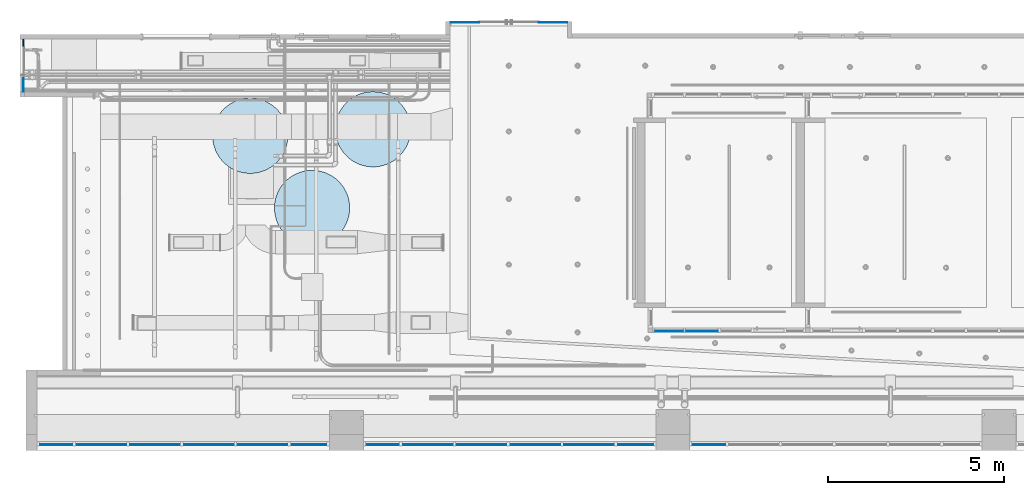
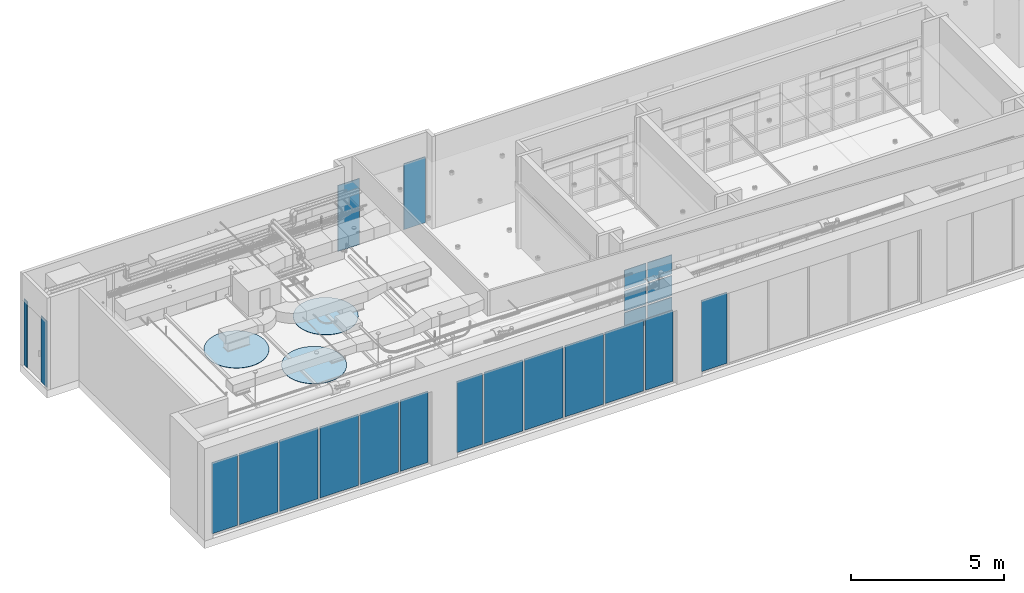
# One storey, part 11 of 108: 23 plates, 3 slabs, 6 elements without a shape of their own.
"""IFC4 building model written with IfcOpenShell, lengths in feet."""

from ifc_helpers import new_model, entity, si_unit, converted_unit, derived_unit, direction, frame, frame_2d, origin, place, context, subcontext, project, spatial, rectangle, circle, extrude, shape, source, transform, mapped, material, layer, layer_set, layer_usage, type_object, type_shapes, element, aggregate, save


model = new_model("IFC4")

# Units and contexts
model_context = context("Model", 3, precision=0.0001, world=origin(), true_north=direction((6.12303176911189e-17, 1.0)))
body_context = subcontext(model_context, "Body", "Model", "MODEL_VIEW")
footprint_context = subcontext(model_context, "FootPrint", "Model", "MODEL_VIEW")
ifc_project = project(units=[converted_unit("LENGTHUNIT", "FOOT", entity("IfcRatioMeasure", 0.3048), si_unit("LENGTHUNIT", "METRE"), dimensions=[1, 0, 0, 0, 0, 0, 0]), converted_unit("AREAUNIT", "SQUARE FOOT", entity("IfcRatioMeasure", 0.09290304), si_unit("AREAUNIT", "SQUARE_METRE"), dimensions=[2, 0, 0, 0, 0, 0, 0]), converted_unit("VOLUMEUNIT", "CUBIC FOOT", entity("IfcRatioMeasure", 0.028316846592), si_unit("VOLUMEUNIT", "CUBIC_METRE"), dimensions=[3, 0, 0, 0, 0, 0, 0]), converted_unit("PLANEANGLEUNIT", "DEGREE", entity("IfcRatioMeasure", 0.0174532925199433), si_unit("PLANEANGLEUNIT", "RADIAN"), dimensions=[0, 0, 0, 0, 0, 0, 0]), si_unit("MASSUNIT", "GRAM", prefix="KILO"), derived_unit("MASSDENSITYUNIT", [(si_unit("MASSUNIT", "GRAM", prefix="KILO"), 1), (si_unit("LENGTHUNIT", "METRE"), -3)]), si_unit("TIMEUNIT", "SECOND"), si_unit("FREQUENCYUNIT", "HERTZ"), si_unit("THERMODYNAMICTEMPERATUREUNIT", "DEGREE_CELSIUS"), derived_unit("THERMALTRANSMITTANCEUNIT", [(si_unit("MASSUNIT", "GRAM", prefix="KILO"), 1), (si_unit("THERMODYNAMICTEMPERATUREUNIT", "KELVIN"), -1), (si_unit("TIMEUNIT", "SECOND"), -3)]), derived_unit("VOLUMETRICFLOWRATEUNIT", [(si_unit("LENGTHUNIT", "METRE"), 3), (si_unit("TIMEUNIT", "SECOND"), -1)]), si_unit("ELECTRICCURRENTUNIT", "AMPERE"), si_unit("ELECTRICVOLTAGEUNIT", "VOLT"), si_unit("POWERUNIT", "WATT"), si_unit("FORCEUNIT", "NEWTON"), si_unit("ILLUMINANCEUNIT", "LUX"), si_unit("LUMINOUSFLUXUNIT", "LUMEN"), si_unit("LUMINOUSINTENSITYUNIT", "CANDELA"), derived_unit("USERDEFINED", [(si_unit("MASSUNIT", "GRAM", prefix="KILO"), -1), (si_unit("LENGTHUNIT", "METRE"), -2), (si_unit("TIMEUNIT", "SECOND"), 3), (si_unit("LUMINOUSFLUXUNIT", "LUMEN"), 1)]), derived_unit("LINEARVELOCITYUNIT", [(si_unit("LENGTHUNIT", "METRE"), 1), (si_unit("TIMEUNIT", "SECOND"), -1)]), si_unit("PRESSUREUNIT", "PASCAL"), derived_unit("USERDEFINED", [(si_unit("LENGTHUNIT", "METRE"), -2), (si_unit("MASSUNIT", "GRAM", prefix="KILO"), 1), (si_unit("TIMEUNIT", "SECOND"), -2)])], contexts=[model_context])

# Site, building, storey
site_placement = place(None, origin())
site = spatial("IfcSite", under=ifc_project, at=site_placement, Name="Default", CompositionType="ELEMENT")
building_placement = place(site_placement, origin())
building = spatial("IfcBuilding", under=site, at=building_placement, CompositionType="ELEMENT")
storey_placement = place(building_placement, frame((0.0, 0.0, 168.0)))
storey = spatial("IfcBuildingStorey", under=building, at=storey_placement, Name="Level 15", CompositionType="ELEMENT", Elevation=168.0)

# Curtain wall, plate
curtain_wall_type_1 = type_object("IfcCurtainWallType", Name="Curtain Wall:Storefront", PredefinedType="NOTDEFINED")
curtain_wall_1_placement = place(storey_placement, frame((0.0, 0.0, -168.0)))
curtain_wall_1 = element("IfcCurtainWall", 1, at=curtain_wall_1_placement, inside=storey, type_object=curtain_wall_type_1, Name="Curtain Wall:Storefront", ObjectType="Curtain Wall:Storefront", PredefinedType="NOTDEFINED")
ifc_material_1 = material(Name="<Unnamed>")
ifc_layer_1 = layer(ifc_material_1, 0.0833333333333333, Name="<Unnamed>")
ifc_layer_set_1 = layer_set([ifc_layer_1], Name="System Panel:Glazed")
ifc_layer_usage_1 = layer_usage(ifc_layer_set_1, "AXIS3", "POSITIVE", 0.104166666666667)
plate_type_1 = type_object("IfcPlateType", Name="Glazed", PredefinedType="CURTAIN_PANEL", material=ifc_layer_set_1)
shared_shape_1 = source(origin(), body_context, "Body", "SweptSolid", [
    extrude(rectangle(XDim=0.0833333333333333, YDim=3.4375, at=frame_2d((-6.93889390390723e-18, 0.0), x_axis=(1.0, 0.0))), frame((1.71875, 0.0416666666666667, 0.0), z_axis=(0.0, 0.0, 1.0), x_axis=(0.0, 1.0, 0.0)), (0.0, 0.0, 1.0), 9.33210373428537),
])
cartesian_point_1 = entity("IfcCartesianPoint", [3.4375, 0.0])
shared_shape_2 = source(frame((-1.71875, 0.0625, 0.0)), footprint_context, "FootPrint", "Curve2D", [
    entity("IfcPolyline", [cartesian_point_1, entity("IfcCartesianPoint", [3.4375, 0.0833333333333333]), entity("IfcCartesianPoint", [0.0, 0.0833333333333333]), entity("IfcCartesianPoint", [0.0, 0.0]), cartesian_point_1]),
])
type_shapes(plate_type_1, [shared_shape_1, shared_shape_2])
plate_1_placement = place(curtain_wall_1_placement, frame((-1.11042596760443, -22.4949357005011, 168.208333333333), z_axis=(0.0, 0.0, 1.0), x_axis=(-1.0, 0.0, 0.0)))
plate_1 = element("IfcPlate", 2, at=plate_1_placement, type_object=plate_type_1, material=ifc_layer_usage_1, Name="System Panel:Glazed", ObjectType="System Panel:Glazed", PredefinedType="CURTAIN_PANEL", shapes=[
    shape(body_context, "Body", "MappedRepresentation", [mapped(shared_shape_1, transform((0.0, 0.0, 0.0), scale=1.0))]),
    shape(body_context, "Body", "MappedRepresentation", [mapped(shared_shape_2, transform((0.0, 0.0, 0.0), scale=1.0))]),
])

curtain_wall_2_placement = place(storey_placement, frame((0.0, 0.0, -168.0)))
curtain_wall_2 = element("IfcCurtainWall", 3, at=curtain_wall_2_placement, inside=storey, type_object=curtain_wall_type_1, Name="Curtain Wall:Storefront", ObjectType="Curtain Wall:Storefront", PredefinedType="NOTDEFINED")
ifc_layer_usage_2 = layer_usage(ifc_layer_set_1, "AXIS3", "POSITIVE", 0.104166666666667)
plate_2_placement = place(curtain_wall_2_placement, frame((-31.5048400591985, -22.494935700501, 168.208333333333), z_axis=(0.0, 0.0, 1.0), x_axis=(-1.0, 0.0, 0.0)))
plate_2 = element("IfcPlate", 4, at=plate_2_placement, type_object=plate_type_1, material=ifc_layer_usage_2, Name="System Panel:Glazed", ObjectType="System Panel:Glazed", PredefinedType="CURTAIN_PANEL", shapes=[
    shape(body_context, "Body", "MappedRepresentation", [mapped(shared_shape_1, transform((0.0, 0.0, 0.0), scale=1.0))]),
    shape(body_context, "Body", "MappedRepresentation", [mapped(shared_shape_2, transform((0.0, 0.0, 0.0), scale=1.0))]),
])

# Plate
ifc_layer_usage_3 = layer_usage(ifc_layer_set_1, "AXIS3", "POSITIVE", 0.104166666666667)
plate_type_2 = type_object("IfcPlateType", Name="Glazed", PredefinedType="CURTAIN_PANEL", material=ifc_layer_set_1)
shared_shape_3 = source(origin(), body_context, "Body", "SweptSolid", [
    extrude(rectangle(XDim=0.0833333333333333, YDim=4.79166666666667, at=frame_2d((-6.93889390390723e-18, 0.0), x_axis=(1.0, 0.0))), frame((2.39583333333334, 0.0416666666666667, 0.0), z_axis=(0.0, 0.0, 1.0), x_axis=(0.0, 1.0, 0.0)), (0.0, 0.0, 1.0), 9.33210373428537),
])
cartesian_point_2 = entity("IfcCartesianPoint", [4.79166666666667, 0.0])
shared_shape_4 = source(frame((-2.39583333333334, 0.0625, 0.0)), footprint_context, "FootPrint", "Curve2D", [
    entity("IfcPolyline", [cartesian_point_2, entity("IfcCartesianPoint", [4.79166666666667, 0.0833333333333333]), entity("IfcCartesianPoint", [0.0, 0.0833333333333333]), entity("IfcCartesianPoint", [0.0, 0.0]), cartesian_point_2]),
])
type_shapes(plate_type_2, [shared_shape_3, shared_shape_4])
plate_3_placement = place(curtain_wall_1_placement, frame((-4.75625930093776, -22.4949357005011, 168.208333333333), z_axis=(0.0, 0.0, 1.0), x_axis=(-1.0, 0.0, 0.0)))
plate_3 = element("IfcPlate", 5, at=plate_3_placement, type_object=plate_type_2, material=ifc_layer_usage_3, Name="System Panel:Glazed", ObjectType="System Panel:Glazed", PredefinedType="CURTAIN_PANEL", shapes=[
    shape(body_context, "Body", "MappedRepresentation", [mapped(shared_shape_3, transform((0.0, 0.0, 0.0), scale=1.0))]),
    shape(body_context, "Body", "MappedRepresentation", [mapped(shared_shape_4, transform((0.0, 0.0, 0.0), scale=1.0))]),
])

ifc_layer_usage_4 = layer_usage(ifc_layer_set_1, "AXIS3", "POSITIVE", 0.104166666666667)
plate_4_placement = place(curtain_wall_1_placement, frame((-9.75625930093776, -22.4949357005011, 168.208333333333), z_axis=(0.0, 0.0, 1.0), x_axis=(-1.0, 0.0, 0.0)))
plate_4 = element("IfcPlate", 6, at=plate_4_placement, type_object=plate_type_2, material=ifc_layer_usage_4, Name="System Panel:Glazed", ObjectType="System Panel:Glazed", PredefinedType="CURTAIN_PANEL", shapes=[
    shape(body_context, "Body", "MappedRepresentation", [mapped(shared_shape_3, transform((0.0, 0.0, 0.0), scale=1.0))]),
    shape(body_context, "Body", "MappedRepresentation", [mapped(shared_shape_4, transform((0.0, 0.0, 0.0), scale=1.0))]),
])

ifc_layer_usage_5 = layer_usage(ifc_layer_set_1, "AXIS3", "POSITIVE", 0.104166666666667)
plate_5_placement = place(curtain_wall_1_placement, frame((-14.7562593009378, -22.494935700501, 168.208333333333), z_axis=(0.0, 0.0, 1.0), x_axis=(-1.0, 0.0, 0.0)))
plate_5 = element("IfcPlate", 7, at=plate_5_placement, type_object=plate_type_2, material=ifc_layer_usage_5, Name="System Panel:Glazed", ObjectType="System Panel:Glazed", PredefinedType="CURTAIN_PANEL", shapes=[
    shape(body_context, "Body", "MappedRepresentation", [mapped(shared_shape_3, transform((0.0, 0.0, 0.0), scale=1.0))]),
    shape(body_context, "Body", "MappedRepresentation", [mapped(shared_shape_4, transform((0.0, 0.0, 0.0), scale=1.0))]),
])

ifc_layer_usage_6 = layer_usage(ifc_layer_set_1, "AXIS3", "POSITIVE", 0.104166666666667)
plate_6_placement = place(curtain_wall_1_placement, frame((-19.7562593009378, -22.494935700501, 168.208333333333), z_axis=(0.0, 0.0, 1.0), x_axis=(-1.0, 0.0, 0.0)))
plate_6 = element("IfcPlate", 8, at=plate_6_placement, type_object=plate_type_2, material=ifc_layer_usage_6, Name="System Panel:Glazed", ObjectType="System Panel:Glazed", PredefinedType="CURTAIN_PANEL", shapes=[
    shape(body_context, "Body", "MappedRepresentation", [mapped(shared_shape_3, transform((0.0, 0.0, 0.0), scale=1.0))]),
    shape(body_context, "Body", "MappedRepresentation", [mapped(shared_shape_4, transform((0.0, 0.0, 0.0), scale=1.0))]),
])

ifc_layer_usage_7 = layer_usage(ifc_layer_set_1, "AXIS3", "POSITIVE", 0.104166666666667)
plate_7_placement = place(curtain_wall_2_placement, frame((-35.1506733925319, -22.494935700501, 168.208333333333), z_axis=(0.0, 0.0, 1.0), x_axis=(-1.0, 0.0, 0.0)))
plate_7 = element("IfcPlate", 9, at=plate_7_placement, type_object=plate_type_2, material=ifc_layer_usage_7, Name="System Panel:Glazed", ObjectType="System Panel:Glazed", PredefinedType="CURTAIN_PANEL", shapes=[
    shape(body_context, "Body", "MappedRepresentation", [mapped(shared_shape_3, transform((0.0, 0.0, 0.0), scale=1.0))]),
    shape(body_context, "Body", "MappedRepresentation", [mapped(shared_shape_4, transform((0.0, 0.0, 0.0), scale=1.0))]),
])

ifc_layer_usage_8 = layer_usage(ifc_layer_set_1, "AXIS3", "POSITIVE", 0.104166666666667)
plate_8_placement = place(curtain_wall_2_placement, frame((-40.1506733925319, -22.494935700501, 168.208333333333), z_axis=(0.0, 0.0, 1.0), x_axis=(-1.0, 0.0, 0.0)))
plate_8 = element("IfcPlate", 10, at=plate_8_placement, type_object=plate_type_2, material=ifc_layer_usage_8, Name="System Panel:Glazed", ObjectType="System Panel:Glazed", PredefinedType="CURTAIN_PANEL", shapes=[
    shape(body_context, "Body", "MappedRepresentation", [mapped(shared_shape_3, transform((0.0, 0.0, 0.0), scale=1.0))]),
    shape(body_context, "Body", "MappedRepresentation", [mapped(shared_shape_4, transform((0.0, 0.0, 0.0), scale=1.0))]),
])

ifc_layer_usage_9 = layer_usage(ifc_layer_set_1, "AXIS3", "POSITIVE", 0.104166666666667)
plate_9_placement = place(curtain_wall_2_placement, frame((-45.1506733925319, -22.494935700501, 168.208333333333), z_axis=(0.0, 0.0, 1.0), x_axis=(-1.0, 0.0, 0.0)))
plate_9 = element("IfcPlate", 11, at=plate_9_placement, type_object=plate_type_2, material=ifc_layer_usage_9, Name="System Panel:Glazed", ObjectType="System Panel:Glazed", PredefinedType="CURTAIN_PANEL", shapes=[
    shape(body_context, "Body", "MappedRepresentation", [mapped(shared_shape_3, transform((0.0, 0.0, 0.0), scale=1.0))]),
    shape(body_context, "Body", "MappedRepresentation", [mapped(shared_shape_4, transform((0.0, 0.0, 0.0), scale=1.0))]),
])

ifc_layer_usage_10 = layer_usage(ifc_layer_set_1, "AXIS3", "POSITIVE", 0.104166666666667)
plate_10_placement = place(curtain_wall_2_placement, frame((-50.1506733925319, -22.4949357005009, 168.208333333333), z_axis=(0.0, 0.0, 1.0), x_axis=(-1.0, 0.0, 0.0)))
plate_10 = element("IfcPlate", 12, at=plate_10_placement, type_object=plate_type_2, material=ifc_layer_usage_10, Name="System Panel:Glazed", ObjectType="System Panel:Glazed", PredefinedType="CURTAIN_PANEL", shapes=[
    shape(body_context, "Body", "MappedRepresentation", [mapped(shared_shape_3, transform((0.0, 0.0, 0.0), scale=1.0))]),
    shape(body_context, "Body", "MappedRepresentation", [mapped(shared_shape_4, transform((0.0, 0.0, 0.0), scale=1.0))]),
])

# Curtain wall, plate
curtain_wall_3_placement = place(storey_placement, frame((0.0, 0.0, -168.0)))
curtain_wall_3 = element("IfcCurtainWall", 13, at=curtain_wall_3_placement, inside=storey, type_object=curtain_wall_type_1, Name="Curtain Wall:Storefront", ObjectType="Curtain Wall:Storefront", PredefinedType="NOTDEFINED")
ifc_layer_usage_11 = layer_usage(ifc_layer_set_1, "AXIS3", "POSITIVE", 0.104166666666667)
plate_type_3 = type_object("IfcPlateType", Name="Glazed", PredefinedType="CURTAIN_PANEL", material=ifc_layer_set_1)
shared_shape_5 = source(origin(), body_context, "Body", "SweptSolid", [
    extrude(rectangle(XDim=0.0833333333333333, YDim=3.16660895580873, at=frame_2d((-6.93889390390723e-18, 0.0), x_axis=(1.0, 0.0))), frame((1.58330447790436, 0.0416666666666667, 0.0), z_axis=(0.0, 0.0, 1.0), x_axis=(0.0, 1.0, 0.0)), (0.0, 0.0, 1.0), 9.33210373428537),
])
cartesian_point_3 = entity("IfcCartesianPoint", [3.16660895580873, 0.0])
shared_shape_6 = source(frame((-1.58330447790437, 0.0625, 0.0)), footprint_context, "FootPrint", "Curve2D", [
    entity("IfcPolyline", [cartesian_point_3, entity("IfcCartesianPoint", [3.16660895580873, 0.0833333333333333]), entity("IfcCartesianPoint", [0.0, 0.0833333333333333]), entity("IfcCartesianPoint", [0.0, 0.0]), cartesian_point_3]),
])
type_shapes(plate_type_3, [shared_shape_5, shared_shape_6])
plate_11_placement = place(curtain_wall_3_placement, frame((5.57707403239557, -22.4949357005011, 168.208333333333), z_axis=(0.0, 0.0, 1.0), x_axis=(-1.0, 0.0, 0.0)))
plate_11 = element("IfcPlate", 14, at=plate_11_placement, type_object=plate_type_3, material=ifc_layer_usage_11, Name="System Panel:Glazed", ObjectType="System Panel:Glazed", PredefinedType="CURTAIN_PANEL", shapes=[
    shape(body_context, "Body", "MappedRepresentation", [mapped(shared_shape_5, transform((0.0, 0.0, 0.0), scale=1.0))]),
    shape(body_context, "Body", "MappedRepresentation", [mapped(shared_shape_6, transform((0.0, 0.0, 0.0), scale=1.0))]),
])
aggregate(curtain_wall_3, [plate_11])

# Plate
ifc_layer_usage_12 = layer_usage(ifc_layer_set_1, "AXIS3", "POSITIVE", 0.104166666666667)
plate_12_placement = place(curtain_wall_1_placement, frame((-24.7562593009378, -22.494935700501, 168.208333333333), z_axis=(0.0, 0.0, 1.0), x_axis=(-1.0, 0.0, 0.0)))
plate_12 = element("IfcPlate", 15, at=plate_12_placement, type_object=plate_type_3, material=ifc_layer_usage_12, Name="System Panel:Glazed", ObjectType="System Panel:Glazed", PredefinedType="CURTAIN_PANEL", shapes=[
    shape(body_context, "Body", "MappedRepresentation", [mapped(shared_shape_5, transform((0.0, 0.0, 0.0), scale=1.0))]),
    shape(body_context, "Body", "MappedRepresentation", [mapped(shared_shape_6, transform((0.0, 0.0, 0.0), scale=1.0))]),
])

aggregate(curtain_wall_1, [plate_1, plate_3, plate_4, plate_5, plate_6, plate_12])

ifc_layer_usage_13 = layer_usage(ifc_layer_set_1, "AXIS3", "POSITIVE", 0.104166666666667)
plate_13_placement = place(curtain_wall_2_placement, frame((-55.1506733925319, -22.4949357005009, 168.208333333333), z_axis=(0.0, 0.0, 1.0), x_axis=(-1.0, 0.0, 0.0)))
plate_13 = element("IfcPlate", 16, at=plate_13_placement, type_object=plate_type_3, material=ifc_layer_usage_13, Name="System Panel:Glazed", ObjectType="System Panel:Glazed", PredefinedType="CURTAIN_PANEL", shapes=[
    shape(body_context, "Body", "MappedRepresentation", [mapped(shared_shape_5, transform((0.0, 0.0, 0.0), scale=1.0))]),
    shape(body_context, "Body", "MappedRepresentation", [mapped(shared_shape_6, transform((0.0, 0.0, 0.0), scale=1.0))]),
])

aggregate(curtain_wall_2, [plate_2, plate_7, plate_8, plate_9, plate_10, plate_13])

# Curtain wall, plates
curtain_wall_type_2 = type_object("IfcCurtainWallType", Name="Curtain Wall:Storefront 02", PredefinedType="NOTDEFINED")
curtain_wall_4_placement = place(storey_placement, frame((0.0, 0.0, -168.0)))
curtain_wall_4 = element("IfcCurtainWall", 17, at=curtain_wall_4_placement, inside=storey, type_object=curtain_wall_type_2, Name="Curtain Wall:Storefront 02", ObjectType="Curtain Wall:Storefront 02", PredefinedType="NOTDEFINED")
ifc_layer_usage_14 = layer_usage(ifc_layer_set_1, "AXIS3", "POSITIVE", 0.104166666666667)
plate_type_4 = type_object("IfcPlateType", Name="Glazed", PredefinedType="CURTAIN_PANEL", material=ifc_layer_set_1)
shared_shape_7 = source(origin(), body_context, "Body", "SweptSolid", [
    extrude(rectangle(XDim=0.0833333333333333, YDim=3.03483468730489, at=frame_2d((-6.93889390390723e-18, 0.0), x_axis=(1.0, 0.0))), frame((1.51741734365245, 0.0416666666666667, 0.0), z_axis=(0.0, 0.0, 1.0), x_axis=(0.0, 1.0, 0.0)), (0.0, 0.0, 1.0), 2.52844160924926),
])
cartesian_point_4 = entity("IfcCartesianPoint", [3.03483468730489, 0.0])
shared_shape_8 = source(frame((-1.51741734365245, 0.0625, 0.0)), footprint_context, "FootPrint", "Curve2D", [
    entity("IfcPolyline", [cartesian_point_4, entity("IfcCartesianPoint", [3.03483468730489, 0.0833333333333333]), entity("IfcCartesianPoint", [0.0, 0.0833333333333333]), entity("IfcCartesianPoint", [0.0, 0.0]), cartesian_point_4]),
])
type_shapes(plate_type_4, [shared_shape_7, shared_shape_8])
plate_14_placement = place(curtain_wall_4_placement, frame((4.87336994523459, -11.9427703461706, 168.208333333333), z_axis=(0.0, 0.0, 1.0), x_axis=(-1.0, 0.0, 0.0)))
plate_14 = element("IfcPlate", 18, at=plate_14_placement, type_object=plate_type_4, material=ifc_layer_usage_14, Name="System Panel:Glazed", ObjectType="System Panel:Glazed", PredefinedType="CURTAIN_PANEL", shapes=[
    shape(body_context, "Body", "MappedRepresentation", [mapped(shared_shape_7, transform((0.0, 0.0, 0.0), scale=1.0))]),
    shape(body_context, "Body", "MappedRepresentation", [mapped(shared_shape_8, transform((0.0, 0.0, 0.0), scale=1.0))]),
])
ifc_layer_usage_15 = layer_usage(ifc_layer_set_1, "AXIS3", "POSITIVE", 0.104166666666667)
plate_15_placement = place(curtain_wall_4_placement, frame((4.87336994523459, -11.9427703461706, 173.786049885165), z_axis=(0.0, 0.0, 1.0), x_axis=(-1.0, 0.0, 0.0)))
plate_15 = element("IfcPlate", 19, at=plate_15_placement, type_object=plate_type_4, material=ifc_layer_usage_15, Name="System Panel:Glazed", ObjectType="System Panel:Glazed", PredefinedType="CURTAIN_PANEL", shapes=[
    shape(body_context, "Body", "MappedRepresentation", [mapped(shared_shape_7, transform((0.0, 0.0, 0.0), scale=1.0))]),
    shape(body_context, "Body", "MappedRepresentation", [mapped(shared_shape_8, transform((0.0, 0.0, 0.0), scale=1.0))]),
])
ifc_layer_usage_16 = layer_usage(ifc_layer_set_1, "AXIS3", "POSITIVE", 0.104166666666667)
plate_type_5 = type_object("IfcPlateType", Name="Glazed", PredefinedType="CURTAIN_PANEL", material=ifc_layer_set_1)
shared_shape_9 = source(origin(), body_context, "Body", "SweptSolid", [
    extrude(rectangle(XDim=0.0833333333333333, YDim=2.66666666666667, at=frame_2d((-6.93889390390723e-18, 1.11022302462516e-16), x_axis=(1.0, 0.0))), frame((1.33333333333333, 0.0416666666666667, 0.0), z_axis=(0.0, 0.0, 1.0), x_axis=(0.0, 1.0, 0.0)), (0.0, 0.0, 1.0), 2.52844160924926),
])
cartesian_point_5 = entity("IfcCartesianPoint", [2.66666666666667, 0.0])
shared_shape_10 = source(frame((-1.33333333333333, 0.0625, 0.0)), footprint_context, "FootPrint", "Curve2D", [
    entity("IfcPolyline", [cartesian_point_5, entity("IfcCartesianPoint", [2.66666666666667, 0.0833333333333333]), entity("IfcCartesianPoint", [0.0, 0.0833333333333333]), entity("IfcCartesianPoint", [0.0, 0.0]), cartesian_point_5]),
])
type_shapes(plate_type_5, [shared_shape_9, shared_shape_10])
plate_16_placement = place(curtain_wall_4_placement, frame((1.63020192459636, -11.9427703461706, 168.208333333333), z_axis=(0.0, 0.0, 1.0), x_axis=(-1.0, 0.0, 0.0)))
plate_16 = element("IfcPlate", 20, at=plate_16_placement, type_object=plate_type_5, material=ifc_layer_usage_16, Name="System Panel:Glazed", ObjectType="System Panel:Glazed", PredefinedType="CURTAIN_PANEL", shapes=[
    shape(body_context, "Body", "MappedRepresentation", [mapped(shared_shape_9, transform((0.0, 0.0, 0.0), scale=1.0))]),
    shape(body_context, "Body", "MappedRepresentation", [mapped(shared_shape_10, transform((0.0, 0.0, 0.0), scale=1.0))]),
])
ifc_layer_usage_17 = layer_usage(ifc_layer_set_1, "AXIS3", "POSITIVE", 0.104166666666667)
plate_17_placement = place(curtain_wall_4_placement, frame((1.63020192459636, -11.9427703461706, 173.786049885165), z_axis=(0.0, 0.0, 1.0), x_axis=(-1.0, 0.0, 0.0)))
plate_17 = element("IfcPlate", 21, at=plate_17_placement, type_object=plate_type_5, material=ifc_layer_usage_17, Name="System Panel:Glazed", ObjectType="System Panel:Glazed", PredefinedType="CURTAIN_PANEL", shapes=[
    shape(body_context, "Body", "MappedRepresentation", [mapped(shared_shape_9, transform((0.0, 0.0, 0.0), scale=1.0))]),
    shape(body_context, "Body", "MappedRepresentation", [mapped(shared_shape_10, transform((0.0, 0.0, 0.0), scale=1.0))]),
])
ifc_layer_usage_18 = layer_usage(ifc_layer_set_1, "AXIS3", "POSITIVE", 0.104166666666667)
plate_type_6 = type_object("IfcPlateType", Name="Glazed", PredefinedType="CURTAIN_PANEL", material=ifc_layer_set_1)
shared_shape_11 = source(origin(), body_context, "Body", "SweptSolid", [
    extrude(rectangle(XDim=0.0833333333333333, YDim=3.03483468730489, at=frame_2d((-6.93889390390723e-18, 0.0), x_axis=(1.0, 0.0))), frame((1.51741734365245, 0.0416666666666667, 0.0), z_axis=(0.0, 0.0, 1.0), x_axis=(0.0, 1.0, 0.0)), (0.0, 0.0, 1.0), 2.63260827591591),
])
cartesian_point_6 = entity("IfcCartesianPoint", [3.03483468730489, 0.0])
shared_shape_12 = source(frame((-1.51741734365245, 0.0625, 0.0)), footprint_context, "FootPrint", "Curve2D", [
    entity("IfcPolyline", [cartesian_point_6, entity("IfcCartesianPoint", [3.03483468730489, 0.0833333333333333]), entity("IfcCartesianPoint", [0.0, 0.0833333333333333]), entity("IfcCartesianPoint", [0.0, 0.0]), cartesian_point_6]),
])
type_shapes(plate_type_6, [shared_shape_11, shared_shape_12])
plate_18_placement = place(curtain_wall_4_placement, frame((4.87336994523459, -11.9427703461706, 170.945108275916), z_axis=(0.0, 0.0, 1.0), x_axis=(-1.0, 0.0, 0.0)))
plate_18 = element("IfcPlate", 22, at=plate_18_placement, type_object=plate_type_6, material=ifc_layer_usage_18, Name="System Panel:Glazed", ObjectType="System Panel:Glazed", PredefinedType="CURTAIN_PANEL", shapes=[
    shape(body_context, "Body", "MappedRepresentation", [mapped(shared_shape_11, transform((0.0, 0.0, 0.0), scale=1.0))]),
    shape(body_context, "Body", "MappedRepresentation", [mapped(shared_shape_12, transform((0.0, 0.0, 0.0), scale=1.0))]),
])
ifc_layer_usage_19 = layer_usage(ifc_layer_set_1, "AXIS3", "POSITIVE", 0.104166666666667)
plate_type_7 = type_object("IfcPlateType", Name="Glazed", PredefinedType="CURTAIN_PANEL", material=ifc_layer_set_1)
shared_shape_13 = source(origin(), body_context, "Body", "SweptSolid", [
    extrude(rectangle(XDim=0.0833333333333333, YDim=2.66666666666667, at=frame_2d((-6.93889390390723e-18, 1.11022302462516e-16), x_axis=(1.0, 0.0))), frame((1.33333333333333, 0.0416666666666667, 0.0), z_axis=(0.0, 0.0, 1.0), x_axis=(0.0, 1.0, 0.0)), (0.0, 0.0, 1.0), 2.63260827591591),
])
cartesian_point_7 = entity("IfcCartesianPoint", [2.66666666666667, 0.0])
shared_shape_14 = source(frame((-1.33333333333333, 0.0625, 0.0)), footprint_context, "FootPrint", "Curve2D", [
    entity("IfcPolyline", [cartesian_point_7, entity("IfcCartesianPoint", [2.66666666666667, 0.0833333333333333]), entity("IfcCartesianPoint", [0.0, 0.0833333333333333]), entity("IfcCartesianPoint", [0.0, 0.0]), cartesian_point_7]),
])
type_shapes(plate_type_7, [shared_shape_13, shared_shape_14])
plate_19_placement = place(curtain_wall_4_placement, frame((1.63020192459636, -11.9427703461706, 170.945108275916), z_axis=(0.0, 0.0, 1.0), x_axis=(-1.0, 0.0, 0.0)))
plate_19 = element("IfcPlate", 23, at=plate_19_placement, type_object=plate_type_7, material=ifc_layer_usage_19, Name="System Panel:Glazed", ObjectType="System Panel:Glazed", PredefinedType="CURTAIN_PANEL", shapes=[
    shape(body_context, "Body", "MappedRepresentation", [mapped(shared_shape_13, transform((0.0, 0.0, 0.0), scale=1.0))]),
    shape(body_context, "Body", "MappedRepresentation", [mapped(shared_shape_14, transform((0.0, 0.0, 0.0), scale=1.0))]),
])
aggregate(curtain_wall_4, [plate_14, plate_16, plate_18, plate_19, plate_15, plate_17])

# Slabs
ifc_material_2 = material(Name="Carpet", Category="Metal")
ifc_layer_2 = layer(ifc_material_2, 0.0416666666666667, Name="Carpet", Category="Metal")
ifc_layer_set_2 = layer_set([ifc_layer_2], Name="Floor:I-Carpet")
ifc_layer_usage_20 = layer_usage(ifc_layer_set_2, "AXIS3", "POSITIVE", 0.0)
slab_type_1 = type_object("IfcSlabType", Name="Floor:I-Carpet", PredefinedType="FLOOR", material=ifc_layer_set_2)
slab_1_placement = place(storey_placement, origin())
element("IfcSlab", 24, at=slab_1_placement, inside=storey, type_object=slab_type_1, material=ifc_layer_usage_20, Name="Floor:I-Carpet", ObjectType="Floor:I-Carpet", PredefinedType="FLOOR", context=body_context, shape_type="SweptSolid", body=[
    extrude(circle(Radius=3.5, at=frame_2d((-2.16795880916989e-29, 6.32827124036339e-15), x_axis=(1.0, 0.0))), frame((-32.9141781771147, -0.513144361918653, 0.0833333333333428), z_axis=(0.0, 0.0, -1.0), x_axis=(-1.0, 0.0, 0.0)), (0.0, 0.0, 1.0), 0.0416666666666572),
])
ifc_layer_usage_21 = layer_usage(ifc_layer_set_2, "AXIS3", "POSITIVE", 0.0)
slab_type_2 = type_object("IfcSlabType", Name="Floor:I-Carpet", PredefinedType="FLOOR", material=ifc_layer_set_2)
slab_2_placement = place(storey_placement, origin())
element("IfcSlab", 25, at=slab_2_placement, inside=storey, type_object=slab_type_2, material=ifc_layer_usage_21, Name="Floor:I-Carpet", ObjectType="Floor:I-Carpet", PredefinedType="FLOOR", context=body_context, shape_type="SweptSolid", body=[
    extrude(circle(Radius=3.5, at=frame_2d((-3.04274920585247e-29, 7.99360577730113e-15), x_axis=(1.0, 0.0))), frame((-38.6672377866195, 6.20248942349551, 0.0833333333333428), z_axis=(0.0, 0.0, -1.0), x_axis=(-1.0, 0.0, 0.0)), (0.0, 0.0, 1.0), 0.0416666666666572),
])
ifc_layer_usage_22 = layer_usage(ifc_layer_set_2, "AXIS3", "POSITIVE", 0.0)
slab_type_3 = type_object("IfcSlabType", Name="Floor:I-Carpet", PredefinedType="FLOOR", material=ifc_layer_set_2)
slab_3_placement = place(storey_placement, origin())
element("IfcSlab", 26, at=slab_3_placement, inside=storey, type_object=slab_type_3, material=ifc_layer_usage_22, Name="Floor:I-Carpet", ObjectType="Floor:I-Carpet", PredefinedType="FLOOR", context=body_context, shape_type="SweptSolid", body=[
    extrude(circle(Radius=3.5, at=frame_2d((-2.52435489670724e-29, 7.105427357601e-15), x_axis=(1.0, 0.0))), frame((-27.2444519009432, 6.80689646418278, 0.0833333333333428), z_axis=(0.0, 0.0, -1.0), x_axis=(-1.0, 0.0, 0.0)), (0.0, 0.0, 1.0), 0.0416666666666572),
])

# Curtain wall, plates
curtain_wall_5_placement = place(storey_placement, frame((0.0, 0.0, -168.0)))
curtain_wall_5 = element("IfcCurtainWall", 27, at=curtain_wall_5_placement, inside=storey, type_object=curtain_wall_type_2, Name="Curtain Wall:Storefront 02", ObjectType="Curtain Wall:Storefront 02", PredefinedType="NOTDEFINED")
ifc_layer_usage_23 = layer_usage(ifc_layer_set_1, "AXIS3", "POSITIVE", 0.104166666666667)
plate_type_8 = type_object("IfcPlateType", Name="Glazed", PredefinedType="CURTAIN_PANEL", material=ifc_layer_set_1)
shared_shape_15 = source(origin(), body_context, "Body", "SweptSolid", [
    extrude(rectangle(XDim=0.0833333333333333, YDim=0.656250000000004, at=frame_2d((6.93889390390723e-18, 0.0), x_axis=(1.0, 0.0))), frame((0.328125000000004, 0.0416666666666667, 0.0), z_axis=(0.0, 0.0, 1.0), x_axis=(0.0, 1.0, 0.0)), (0.0, 0.0, 1.0), 8.66397850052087),
])
cartesian_point_8 = entity("IfcCartesianPoint", [0.656250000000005, 0.0])
shared_shape_16 = source(frame((-0.328125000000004, 0.0624999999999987, 0.0)), footprint_context, "FootPrint", "Curve2D", [
    entity("IfcPolyline", [cartesian_point_8, entity("IfcCartesianPoint", [0.656250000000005, 0.0833333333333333]), entity("IfcCartesianPoint", [0.0, 0.0833333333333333]), entity("IfcCartesianPoint", [0.0, 0.0]), cartesian_point_8]),
])
type_shapes(plate_type_8, [shared_shape_15, shared_shape_16])
plate_20_placement = place(curtain_wall_5_placement, frame((-59.8173400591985, 15.2016077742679, 168.0), z_axis=(0.0, 0.0, 1.0), x_axis=(0.0, -1.0, 0.0)))
plate_20 = element("IfcPlate", 28, at=plate_20_placement, type_object=plate_type_8, material=ifc_layer_usage_23, Name="System Panel:Glazed", ObjectType="System Panel:Glazed", PredefinedType="CURTAIN_PANEL", shapes=[
    shape(body_context, "Body", "MappedRepresentation", [mapped(shared_shape_15, transform((0.0, 0.0, 0.0), scale=1.0))]),
    shape(body_context, "Body", "MappedRepresentation", [mapped(shared_shape_16, transform((0.0, 0.0, 0.0), scale=1.0))]),
])
ifc_layer_usage_24 = layer_usage(ifc_layer_set_1, "AXIS3", "POSITIVE", 0.104166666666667)
plate_type_9 = type_object("IfcPlateType", Name="Glazed", PredefinedType="CURTAIN_PANEL", material=ifc_layer_set_1)
shared_shape_17 = source(origin(), body_context, "Body", "SweptSolid", [
    extrude(rectangle(XDim=0.0833333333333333, YDim=1.25, at=frame_2d((-6.93889390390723e-18, 0.0), x_axis=(1.0, 0.0))), frame((0.625, 0.0416666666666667, 0.0), z_axis=(0.0, 0.0, 1.0), x_axis=(0.0, 1.0, 0.0)), (0.0, 0.0, 1.0), 8.66397850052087),
])
cartesian_point_9 = entity("IfcCartesianPoint", [1.25, 0.0])
shared_shape_18 = source(frame((-0.625, 0.0624999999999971, 0.0)), footprint_context, "FootPrint", "Curve2D", [
    entity("IfcPolyline", [cartesian_point_9, entity("IfcCartesianPoint", [1.25, 0.0833333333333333]), entity("IfcCartesianPoint", [0.0, 0.0833333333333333]), entity("IfcCartesianPoint", [0.0, 0.0]), cartesian_point_9]),
])
type_shapes(plate_type_9, [shared_shape_17, shared_shape_18])
plate_21_placement = place(curtain_wall_5_placement, frame((-59.8173400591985, 11.5453577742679, 168.0), z_axis=(0.0, 0.0, 1.0), x_axis=(0.0, -1.0, 0.0)))
plate_21 = element("IfcPlate", 29, at=plate_21_placement, type_object=plate_type_9, material=ifc_layer_usage_24, Name="System Panel:Glazed", ObjectType="System Panel:Glazed", PredefinedType="CURTAIN_PANEL", shapes=[
    shape(body_context, "Body", "MappedRepresentation", [mapped(shared_shape_17, transform((0.0, 0.0, 0.0), scale=1.0))]),
    shape(body_context, "Body", "MappedRepresentation", [mapped(shared_shape_18, transform((0.0, 0.0, 0.0), scale=1.0))]),
])
aggregate(curtain_wall_5, [plate_20, plate_21])

curtain_wall_6_placement = place(storey_placement, frame((0.0, 0.0, -168.0)))
curtain_wall_6 = element("IfcCurtainWall", 30, at=curtain_wall_6_placement, inside=storey, type_object=curtain_wall_type_2, Name="Curtain Wall:Storefront 02", ObjectType="Curtain Wall:Storefront 02", PredefinedType="NOTDEFINED")
ifc_layer_usage_25 = layer_usage(ifc_layer_set_1, "AXIS3", "POSITIVE", 0.104166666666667)
plate_type_10 = type_object("IfcPlateType", Name="Glazed", PredefinedType="CURTAIN_PANEL", material=ifc_layer_set_1)
shared_shape_19 = source(origin(), body_context, "Body", "SweptSolid", [
    extrude(rectangle(XDim=0.0833333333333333, YDim=2.66666666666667, at=frame_2d((-6.93889390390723e-18, 0.0), x_axis=(1.0, 0.0))), frame((1.33333333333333, 0.0416666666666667, 0.0), z_axis=(0.0, 0.0, 1.0), x_axis=(0.0, 1.0, 0.0)), (0.0, 0.0, 1.0), 8.66397850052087),
])
cartesian_point_10 = entity("IfcCartesianPoint", [2.66666666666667, 0.0])
shared_shape_20 = source(frame((-1.33333333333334, 0.0625, 0.0)), footprint_context, "FootPrint", "Curve2D", [
    entity("IfcPolyline", [cartesian_point_10, entity("IfcCartesianPoint", [2.66666666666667, 0.0833333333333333]), entity("IfcCartesianPoint", [0.0, 0.0833333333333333]), entity("IfcCartesianPoint", [0.0, 0.0]), cartesian_point_10]),
])
type_shapes(plate_type_10, [shared_shape_19, shared_shape_20])
plate_22_placement = place(curtain_wall_6_placement, frame((-20.0062811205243, 16.7042589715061, 168.0)))
plate_22 = element("IfcPlate", 31, at=plate_22_placement, type_object=plate_type_10, material=ifc_layer_usage_25, Name="System Panel:Glazed", ObjectType="System Panel:Glazed", PredefinedType="CURTAIN_PANEL", shapes=[
    shape(body_context, "Body", "MappedRepresentation", [mapped(shared_shape_19, transform((0.0, 0.0, 0.0), scale=1.0))]),
    shape(body_context, "Body", "MappedRepresentation", [mapped(shared_shape_20, transform((0.0, 0.0, 0.0), scale=1.0))]),
])
ifc_layer_usage_26 = layer_usage(ifc_layer_set_1, "AXIS3", "POSITIVE", 0.104166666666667)
plate_type_11 = type_object("IfcPlateType", Name="Glazed", PredefinedType="CURTAIN_PANEL", material=ifc_layer_set_1)
shared_shape_21 = source(origin(), body_context, "Body", "SweptSolid", [
    extrude(rectangle(XDim=0.0833333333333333, YDim=2.68525787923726, at=frame_2d((-6.93889390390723e-18, 0.0), x_axis=(1.0, 0.0))), frame((1.34262893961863, 0.0416666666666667, 0.0), z_axis=(0.0, 0.0, 1.0), x_axis=(0.0, 1.0, 0.0)), (0.0, 0.0, 1.0), 8.66397850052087),
])
cartesian_point_11 = entity("IfcCartesianPoint", [2.68525787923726, 0.0])
shared_shape_22 = source(frame((-1.34262893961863, 0.0625, 0.0)), footprint_context, "FootPrint", "Curve2D", [
    entity("IfcPolyline", [cartesian_point_11, entity("IfcCartesianPoint", [2.68525787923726, 0.0833333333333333]), entity("IfcCartesianPoint", [0.0, 0.0833333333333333]), entity("IfcCartesianPoint", [0.0, 0.0]), cartesian_point_11]),
])
type_shapes(plate_type_11, [shared_shape_21, shared_shape_22])
plate_23_placement = place(curtain_wall_6_placement, frame((-11.8396144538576, 16.704258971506, 168.0)))
plate_23 = element("IfcPlate", 32, at=plate_23_placement, type_object=plate_type_11, material=ifc_layer_usage_26, Name="System Panel:Glazed", ObjectType="System Panel:Glazed", PredefinedType="CURTAIN_PANEL", shapes=[
    shape(body_context, "Body", "MappedRepresentation", [mapped(shared_shape_21, transform((0.0, 0.0, 0.0), scale=1.0))]),
    shape(body_context, "Body", "MappedRepresentation", [mapped(shared_shape_22, transform((0.0, 0.0, 0.0), scale=1.0))]),
])
aggregate(curtain_wall_6, [plate_22, plate_23])

save(model, "model.ifc")
